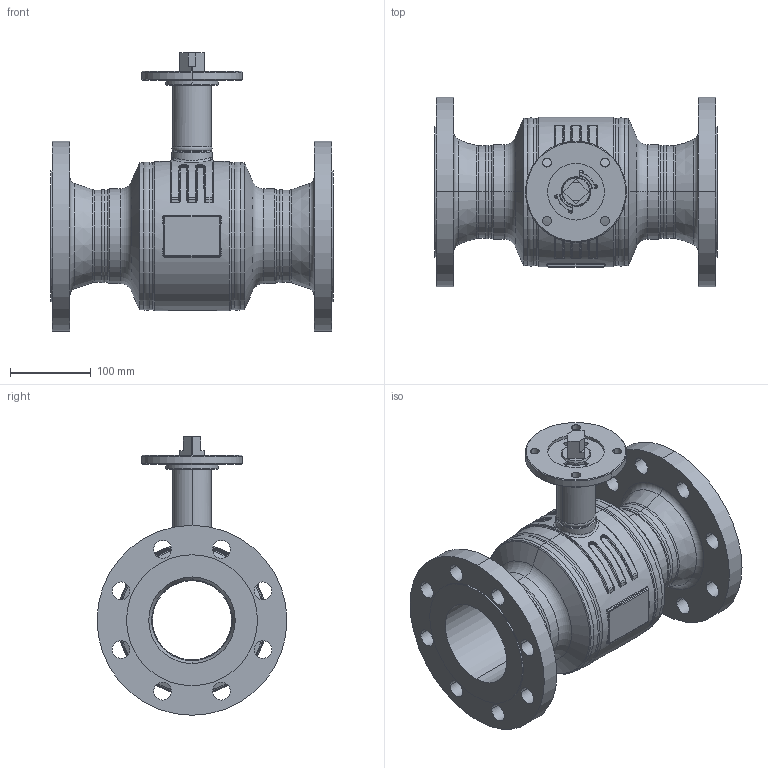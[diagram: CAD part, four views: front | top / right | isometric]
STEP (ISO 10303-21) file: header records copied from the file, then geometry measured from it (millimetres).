
FILE_DESCRIPTION((''),'2;1');
FILE_NAME('KHMO-F-V-H-100P040-VI_SW0001','2025-04-22T15:33:13',('jeitlers'),('KLINGER'),'CREO PARAMETRIC BY PTC INC, 2023014','CREO PARAMETRIC BY PTC INC, 2023014','');
FILE_SCHEMA(('CONFIG_CONTROL_DESIGN'));
Length unit declared in the file: millimetre
Products named in the file (1): KHMO-F-V-H-100P040-VI_SW0001
Bounding box: 350 x 235 x 344.5 mm (x, y, z)
Volume: 3688864.2 mm3; surface area: 787578.4 mm2
Topology: 2 solids, 2 shells, 596 faces, 1435 edges, 858 vertices
Faces by surface type: cylinder 230, torus 120, plane 108, cone 78, bspline 52, sphere 8
Entity records: 29634 total; most frequent: CARTESIAN_POINT 15592, DIRECTION 3123, ORIENTED_EDGE 2854, EDGE_CURVE 1427, AXIS2_PLACEMENT_3D 1326, VERTEX_POINT 858, CIRCLE 782, EDGE_LOOP 679
